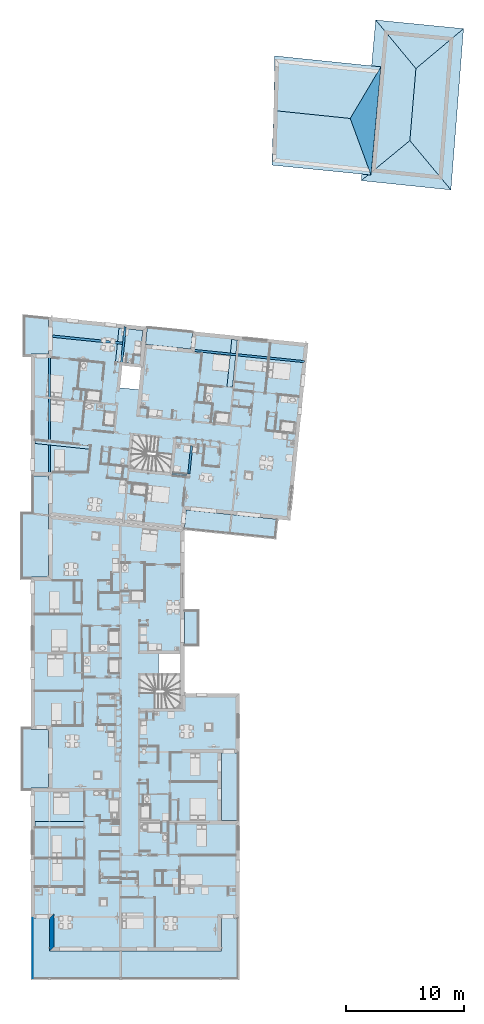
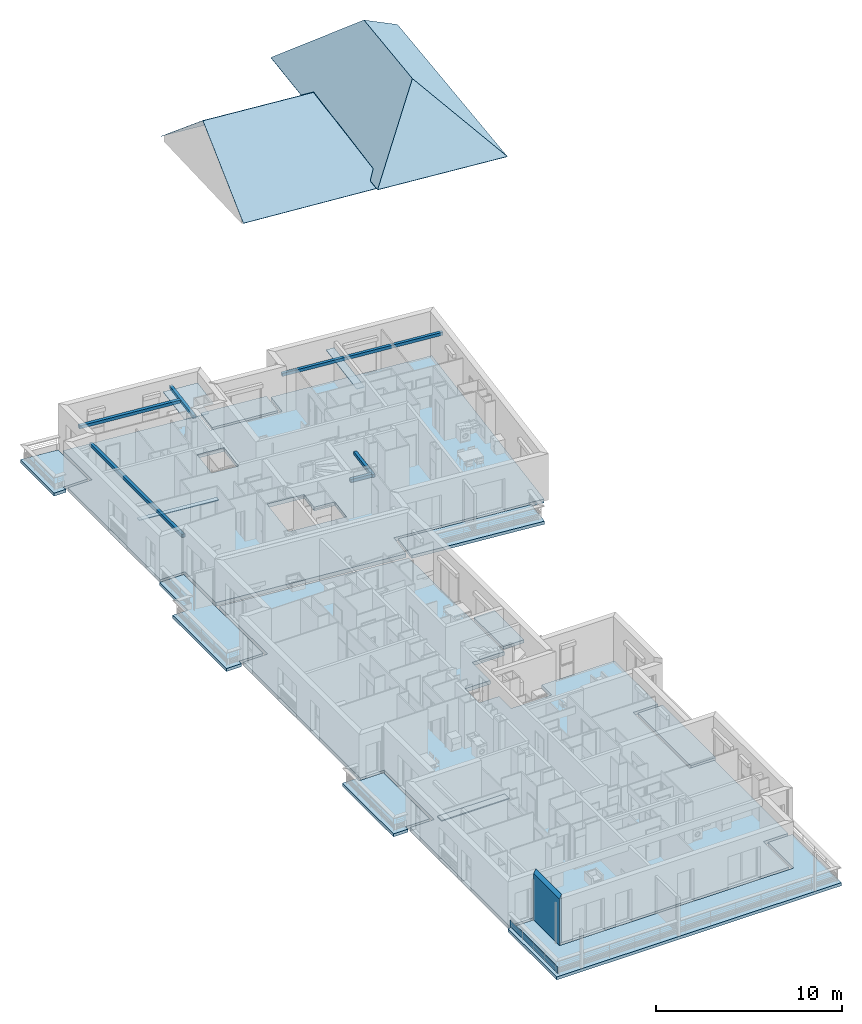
# One storey, part 2 of 165: 18 slabs, 6 beams, 2 walls.
"""IFC2X3 building model written with IfcOpenShell, lengths in millimetres."""

from ifc_helpers import new_model, entity, si_unit, converted_unit, derived_unit, money_unit, direction, frame, frame_2d, origin_with_axes, place, context, subcontext, project, spatial, polyline, rectangle, outline, extrude, faceted_brep, material, layer, layer_set, layer_usage, type_object, element, save


model = new_model("IFC2X3")

# Units and contexts
model_context = context("Model", 3, precision=0.01, world=origin_with_axes(), true_north=direction((0.0, 1.0)))
body_context = subcontext(model_context, "Body", "Model", "MODEL_VIEW")
ifc_project = project(units=[si_unit("LENGTHUNIT", "METRE", prefix="MILLI"), si_unit("AREAUNIT", "SQUARE_METRE"), si_unit("VOLUMEUNIT", "CUBIC_METRE"), converted_unit("PLANEANGLEUNIT", "DEGREE", entity("IfcPlaneAngleMeasure", 0.0174532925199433), si_unit("PLANEANGLEUNIT", "RADIAN"), dimensions=[0, 0, 0, 0, 0, 0, 0]), money_unit("USD"), converted_unit("TIMEUNIT", "Year", entity("IfcTimeMeasure", 31557600.0), si_unit("TIMEUNIT", "SECOND"), dimensions=[0, 0, 1, 0, 0, 0, 0]), si_unit("MASSUNIT", "GRAM", prefix="KILO"), si_unit("THERMODYNAMICTEMPERATUREUNIT", "DEGREE_CELSIUS"), si_unit("LUMINOUSINTENSITYUNIT", "LUMEN"), si_unit("ENERGYUNIT", "JOULE", prefix="MEGA"), derived_unit("THERMALCONDUCTANCEUNIT", [(si_unit("POWERUNIT", "WATT"), 1), (si_unit("LENGTHUNIT", "METRE"), -1), (si_unit("THERMODYNAMICTEMPERATUREUNIT", "KELVIN"), -1)]), derived_unit("SPECIFICHEATCAPACITYUNIT", [(si_unit("ENERGYUNIT", "JOULE"), 1), (si_unit("MASSUNIT", "GRAM", prefix="KILO"), -1), (si_unit("THERMODYNAMICTEMPERATUREUNIT", "KELVIN"), -1)]), derived_unit("MASSDENSITYUNIT", [(si_unit("MASSUNIT", "GRAM", prefix="KILO"), 1), (si_unit("VOLUMEUNIT", "CUBIC_METRE"), -1)])], contexts=[model_context])

# Site, building, storey
site_placement = place(None, origin_with_axes())
site = spatial("IfcSite", under=ifc_project, at=site_placement, Name="Site", CompositionType="ELEMENT")
building_placement = place(site_placement, origin_with_axes())
building = spatial("IfcBuilding", under=site, at=building_placement, Name="Bâtiment", CompositionType="ELEMENT")
storey_placement = place(building_placement, frame((0.0, 0.0, 8500.0), z_axis=(0.0, 0.0, 1.0), x_axis=(1.0, 0.0, 0.0)))
storey = spatial("IfcBuildingStorey", under=building, at=storey_placement, Name="Etage 2", CompositionType="ELEMENT", Elevation=8500.0)

# Beams
ifc_material_1 = material(Name="Brique 1 268964100")
beam_type_1 = type_object("IfcBeamType", Name="Brique 1 268964100 180 x 200", PredefinedType="NOTDEFINED")
beam_1_placement = place(storey_placement, frame((2230393.87287307, -606839.5365523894, 2500.0), z_axis=(0.0, 0.0, 1.0), x_axis=(-0.1011032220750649, -0.9948759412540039, 0.0)))
element("IfcBeam", 1, at=beam_1_placement, inside=storey, type_object=beam_type_1, material=ifc_material_1, Name="Poutre-010", context=body_context, shape_type="SweptSolid", body=[
    extrude(rectangle(XDim=200.0, YDim=180.0, at=frame_2d((-100.0, 0.0), x_axis=(1.0, 0.0))), frame((0.0, 0.0, 0.0), z_axis=(0.0, 1.0, 0.0), x_axis=(0.0, 0.0, 1.0)), (0.0, 0.0, 1.0), 9497.85905292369),
])
beam_2_placement = place(storey_placement, frame((2218224.233344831, -617327.5058083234, 2500.0), z_axis=(0.0, 0.0, 1.0), x_axis=(1.0, 0.0, 0.0)))
element("IfcBeam", 2, at=beam_2_placement, inside=storey, type_object=beam_type_1, material=ifc_material_1, Name="Poutre-010", context=body_context, shape_type="SweptSolid", body=[
    extrude(rectangle(XDim=200.0, YDim=180.0, at=frame_2d((-100.0, 0.0), x_axis=(1.0, 0.0))), frame((0.0, 0.0, 0.0), z_axis=(0.0, 1.0, 0.0), x_axis=(0.0, 0.0, 1.0)), (0.0, 0.0, 1.0), 9980.11790760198),
])
beam_3_placement = place(storey_placement, frame((2228610.301146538, -617315.562762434, 2500.0), z_axis=(0.0, 0.0, 1.0), x_axis=(-0.101103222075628, -0.9948759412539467, 0.0)))
element("IfcBeam", 3, at=beam_3_placement, inside=storey, type_object=beam_type_1, material=ifc_material_1, Name="Poutre-010", context=body_context, shape_type="SweptSolid", body=[
    extrude(rectangle(XDim=200.0, YDim=180.0, at=frame_2d((-100.0, 0.0), x_axis=(1.0, 0.0))), frame((0.0, 0.0, 0.0), z_axis=(0.0, 1.0, 0.0), x_axis=(0.0, 0.0, 1.0)), (0.0, 0.0, 1.0), 1264.730172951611),
])
beam_4_placement = place(storey_placement, frame((2224328.531183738, -607941.9597827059, 2500.0), z_axis=(0.0, 0.0, 1.0), x_axis=(0.9948759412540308, -0.1011032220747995, 0.0)))
element("IfcBeam", 4, at=beam_4_placement, inside=storey, type_object=beam_type_1, material=ifc_material_1, Name="Poutre-010", context=body_context, shape_type="SweptSolid", body=[
    extrude(rectangle(XDim=200.0, YDim=180.0, at=frame_2d((-100.0, 0.0), x_axis=(1.0, 0.0))), frame((0.0, 0.0, 0.0), z_axis=(0.0, 1.0, 0.0), x_axis=(0.0, 0.0, 1.0)), (0.0, 0.0, 1.0), 3119.999936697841),
])
beam_5_placement = place(storey_placement, frame((2230040.489356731, -617334.0619865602, 2300.000000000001), z_axis=(0.0, 0.0, 1.0), x_axis=(0.9948759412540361, -0.1011032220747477, 0.0)))
element("IfcBeam", 5, at=beam_5_placement, inside=storey, type_object=beam_type_1, material=ifc_material_1, Name="Poutre-010", context=body_context, shape_type="SweptSolid", body=[
    extrude(rectangle(XDim=200.0, YDim=180.0, at=frame_2d((-100.0, 0.0), x_axis=(1.0, 0.0))), frame((0.0, 0.0, 0.0), z_axis=(0.0, 1.0, 0.0), x_axis=(0.0, 0.0, 1.0)), (0.0, 0.0, 1.0), 2403.976836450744),
])
beam_type_2 = type_object("IfcBeamType", Name="Brique 1 268964100 200 x 200", PredefinedType="NOTDEFINED")
beam_6_placement = place(storey_placement, frame((2218464.123022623, -605637.2397645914, 2500.0), z_axis=(0.0, 0.0, 1.0), x_axis=(-0.1011032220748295, -0.9948759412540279, 0.0)))
element("IfcBeam", 6, at=beam_6_placement, inside=storey, type_object=beam_type_2, material=ifc_material_1, Name="Poutre-010", context=body_context, shape_type="SweptSolid", body=[
    extrude(rectangle(XDim=200.0, YDim=200.0, at=frame_2d((-100.0, 0.0), x_axis=(1.0, 0.0))), frame((0.0, 0.0, 0.0), z_axis=(0.0, 1.0, 0.0), x_axis=(0.0, 0.0, 1.0)), (0.0, 0.0, 1.0), 6167.373208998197),
])

# Slabs
ifc_material_2 = material(Name="100 % (2) 313493396")
ifc_layer_1 = layer(ifc_material_2, 50.0, ventilated="UNKNOWN")
ifc_layer_set_1 = layer_set([ifc_layer_1], Name="dalle 5")
ifc_layer_usage_1 = layer_usage(ifc_layer_set_1, "AXIS3", "NEGATIVE", 50.0)
slab_type_1 = type_object("IfcSlabType", Name="dalle 5 50", PredefinedType="FLOOR")
slab_1_placement = place(storey_placement, frame((2233687.057866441, -605917.7649568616, 2300.000000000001), z_axis=(0.0, 0.0, 1.0), x_axis=(1.0, 0.0, 0.0)))
element("IfcSlab", 7, at=slab_1_placement, inside=storey, type_object=slab_type_1, material=ifc_layer_usage_1, Name="Dalle-033", PredefinedType="FLOOR", context=body_context, shape_type="SweptSolid", body=[
    extrude(outline(polyline([(0.0, 0.0), (-408.0038915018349, -4003.454764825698), (65.88150709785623, -4051.749817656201), (475.8709786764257, -48.35989647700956), (0.0, 0.0)])), frame((0.0, 0.0, -50.0), z_axis=(0.0, 0.0, 1.0), x_axis=(1.0, 0.0, 0.0)), (0.0, 0.0, 1.0), 50.0),
])
ifc_layer_usage_2 = layer_usage(ifc_layer_set_1, "AXIS3", "NEGATIVE", 50.0)
slab_2_placement = place(storey_placement, frame((2216974.233342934, -646849.0856846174, 2300.000000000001), z_axis=(0.0, 0.0, 1.0), x_axis=(1.0, 0.0, 0.0)))
element("IfcSlab", 8, at=slab_2_placement, inside=storey, type_object=slab_type_1, material=ifc_layer_usage_2, Name="Dalle-033", PredefinedType="FLOOR", context=body_context, shape_type="SweptSolid", body=[
    extrude(outline(polyline([(0.0, 0.0), (0.0, -471.7009405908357), (4178.117824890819, -471.7009405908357), (4178.117824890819, -2.939116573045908), (0.0, 0.0)])), frame((0.0, 0.0, -50.0), z_axis=(0.0, 0.0, 1.0), x_axis=(1.0, 0.0, 0.0)), (0.0, 0.0, 1.0), 50.0),
])
ifc_layer_usage_3 = layer_usage(ifc_layer_set_1, "AXIS3", "NEGATIVE", 50.0)
slab_3_placement = place(storey_placement, frame((2224110.395544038, -604944.5467093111, 2300.000000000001), z_axis=(0.0, 0.0, 1.0), x_axis=(1.0, 0.0, 0.0)))
element("IfcSlab", 9, at=slab_3_placement, inside=storey, type_object=slab_type_1, material=ifc_layer_usage_3, Name="Dalle-033", PredefinedType="FLOOR", context=body_context, shape_type="SweptSolid", body=[
    extrude(outline(polyline([(0.0, 0.0), (-289.1694038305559, -2845.336077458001), (1143.195881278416, -2990.906303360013), (1220.068497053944, -2234.464377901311), (1817.330109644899, -2295.160461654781), (2018.028361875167, -320.1719685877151), (2029.612910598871, -206.2572792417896), (0.0, 0.0)])), frame((0.0, 0.0, -50.0), z_axis=(0.0, 0.0, 1.0), x_axis=(1.0, 0.0, 0.0)), (0.0, 0.0, 1.0), 50.0),
])
ifc_layer_usage_4 = layer_usage(ifc_layer_set_1, "AXIS3", "NEGATIVE", 50.0)
slab_4_placement = place(storey_placement, frame((2216974.233344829, -614749.3219730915, 2300.000000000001), z_axis=(0.0, 0.0, 1.0), x_axis=(1.0, 0.0, 0.0)))
element("IfcSlab", 10, at=slab_4_placement, inside=storey, type_object=slab_type_1, material=ifc_layer_usage_4, Name="Dalle-033", PredefinedType="FLOOR", context=body_context, shape_type="SweptSolid", body=[
    extrude(outline(polyline([(0.0, 0.0), (4669.890523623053, -490.8252407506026), (4698.260022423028, -211.8584208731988), (3155.885458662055, -55.00668013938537), (4.159915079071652e-06, 265.9310156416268), (0.0, 0.0)])), frame((0.0, 0.0, -50.0), z_axis=(0.0, 0.0, 1.0), x_axis=(1.0, 0.0, 0.0)), (0.0, 0.0, 1.0), 50.0),
])
ifc_material_3 = material(Name="Parpaing 288701002")
ifc_layer_2 = layer(ifc_material_3, 200.0, ventilated="UNKNOWN")
ifc_layer_set_2 = layer_set([ifc_layer_2], Name="dalle 20 0025571715")
ifc_layer_usage_5 = layer_usage(ifc_layer_set_2, "AXIS3", "NEGATIVE", 200.0)
slab_type_2 = type_object("IfcSlabType", Name="dalle 20 0025571715 200", PredefinedType="FLOOR")
slab_5_placement = place(storey_placement, frame((2230223.894490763, -606731.7991374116, 0.0), z_axis=(0.0, 0.0, 1.0), x_axis=(1.0, 0.0, 0.0)))
element("IfcSlab", 11, at=slab_5_placement, inside=storey, type_object=slab_type_2, material=ifc_layer_usage_5, Name="Dalle-050", PredefinedType="FLOOR", context=body_context, shape_type="SweptSolid", body=[
    extrude(outline(polyline([(0.0, 0.0), (151.6548331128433, 1492.313911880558), (-3711.009227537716, 1887.277492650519), (-3862.664209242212, 394.9635958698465), (0.0, 0.0)])), frame((0.0, 0.0, -200.0), z_axis=(0.0, 0.0, 1.0), x_axis=(1.0, 0.0, 0.0)), (0.0, 0.0, 1.0), 200.0),
])
ifc_layer_usage_6 = layer_usage(ifc_layer_set_2, "AXIS3", "NEGATIVE", 200.0)
slab_6_placement = place(storey_placement, frame((2216634.233338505, -660298.1031596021, 0.0), z_axis=(0.0, 0.0, 1.0), x_axis=(1.0, 0.0, 0.0)))
element("IfcSlab", 12, at=slab_6_placement, inside=storey, type_object=slab_type_2, material=ifc_layer_usage_6, Name="Dalle-050", PredefinedType="FLOOR", context=body_context, shape_type="SweptSolid", body=[
    extrude(outline(polyline([(0.0, 0.0), (17705.50428824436, 0.0), (17705.50428824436, 5256.635282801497), (16172.42477240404, 5256.635282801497), (16172.42476012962, 2479.780082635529), (1599.999920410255, 2479.780024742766), (1599.999920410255, 5256.635282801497), (0.0, 5256.635282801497), (0.0, 0.0)])), frame((0.0, 0.0, -200.0), z_axis=(0.0, 0.0, 1.0), x_axis=(1.0, 0.0, 0.0)), (0.0, 0.0, 1.0), 200.0),
])
ifc_material_4 = material(Name="Isolant styromousse 288701002")
slab_type_3 = type_object("IfcSlabType", Name="Isolant styromousse 288701002 15", PredefinedType="ROOF")
slab_7_placement = place(storey_placement, frame((2249022.343784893, -586008.4102395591, 1568.886353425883), z_axis=(0.0, 0.0, 1.0), x_axis=(1.0, 0.0, 0.0)))
element("IfcSlab", 13, at=slab_7_placement, inside=storey, type_object=slab_type_3, material=ifc_material_4, Name="Toit-024", PredefinedType="ROOF", context=body_context, shape_type="Brep", body=[
    faceted_brep([(298.6643888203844, 3089.668017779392, 2991.73285764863), (4345.344184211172, 6479.725297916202, -778.3329238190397), (-3114.533458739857, 7213.824325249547, -778.3329846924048), (-216.323681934, -3025.106949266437, 3028.430706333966), (3274.502416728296, -7213.82432524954, -778.3329652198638), (4345.344184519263, 6479.725298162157, -799.999932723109), (-3114.533459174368, 7213.824325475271, -799.9999934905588), (-4345.344184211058, -6424.546240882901, -778.3329851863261), (3274.50241666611, -7213.824325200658, -799.9999737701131), (298.6643889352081, 3089.668017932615, 2970.065848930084), (-4345.344184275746, -6424.546241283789, -799.999993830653), (-216.3236821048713, -3025.106948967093, 3006.76369791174)], [[[0, 1, 2]], [[1, 0, 3, 4]], [[1, 5, 6, 2]], [[3, 0, 2, 7]], [[4, 3, 7]], [[5, 1, 4, 8]], [[5, 9, 6]], [[2, 6, 10, 7]], [[8, 4, 7, 10]], [[9, 5, 8, 11]], [[9, 11, 10, 6]], [[11, 8, 10]]]),
])
ifc_layer_3 = layer(ifc_material_4, 15.32088886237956, ventilated="UNKNOWN")
ifc_layer_set_3 = layer_set([ifc_layer_3], Name="Isolant styromousse 288701002 15.3209")
ifc_layer_usage_7 = layer_usage(ifc_layer_set_3, "AXIS3", "NEGATIVE", 15.32088886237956)
slab_8_placement = place(storey_placement, frame((2246304.734301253, -583297.017413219, 385.4056906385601), z_axis=(0.0, 0.0, 1.0), x_axis=(-0.08988090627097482, -0.9959525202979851, 0.0)))
element("IfcSlab", 14, at=slab_8_placement, inside=storey, type_object=slab_type_3, material=ifc_layer_usage_7, Name="Toit-023", PredefinedType="ROOF", context=body_context, shape_type="SweptSolid", body=[
    extrude(outline(polyline([(-531.6601426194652, -2.323031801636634e-10), (4072.073223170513, -4499.183275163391), (8695.913567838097, -26.40222861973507), (-531.6601426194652, -2.323031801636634e-10)])), frame((0.0, 0.0, 0.0), z_axis=(0.0, 0.8720692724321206, 0.4893824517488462), x_axis=(1.0, 0.0, 0.0)), (0.0, -0.8720692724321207, 0.4893824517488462), 31.30657588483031),
])
ifc_layer_usage_8 = layer_usage(ifc_layer_set_3, "AXIS3", "NEGATIVE", 15.32088886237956)
slab_9_placement = place(storey_placement, frame((2245544.7225973, -591718.5565744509, 650.94680440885), z_axis=(0.0, 0.0, 1.0), x_axis=(-0.9946781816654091, 0.1030306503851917, 0.0)))
element("IfcSlab", 15, at=slab_9_placement, inside=storey, type_object=slab_type_3, material=ifc_layer_usage_8, Name="Toit-023", PredefinedType="ROOF", context=body_context, shape_type="SweptSolid", body=[
    extrude(outline(polyline([(8471.542386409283, 355.6482977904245), (9.747025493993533, 313.6888679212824), (2259.542385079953, -5684.029891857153), (8791.313423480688, -5683.941553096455), (8471.542386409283, 355.6482977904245)])), frame((0.0, 0.0, 0.0), z_axis=(0.0, 0.6427876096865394, 0.7660444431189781), x_axis=(1.0, 0.0, 0.0)), (0.0, -0.6427876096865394, 0.7660444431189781), 20.0),
])
ifc_layer_usage_9 = layer_usage(ifc_layer_set_3, "AXIS3", "NEGATIVE", 15.32088886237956)
slab_10_placement = place(storey_placement, frame((2237364.476926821, -582084.9367161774, 650.94680440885), z_axis=(0.0, 0.0, 1.0), x_axis=(0.994678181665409, -0.1030306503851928, 0.0)))
element("IfcSlab", 16, at=slab_10_placement, inside=storey, type_object=slab_type_3, material=ifc_layer_usage_9, Name="Toit-023", PredefinedType="ROOF", context=body_context, shape_type="SweptSolid", body=[
    extrude(outline(polyline([(-53.35721052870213, 314.2326618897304), (337.956585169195, -5724.711730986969), (6869.727623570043, -5724.623392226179), (9010.536617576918, 322.5714318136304), (-53.35721052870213, 314.2326618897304)])), frame((0.0, 0.0, 0.0), z_axis=(0.0, 0.6427876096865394, 0.7660444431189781), x_axis=(1.0, 0.0, 0.0)), (0.0, -0.6427876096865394, 0.7660444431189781), 20.0),
])
ifc_material_5 = material(Name="MANQUANT")
ifc_layer_4 = layer(ifc_material_5, 200.0, ventilated="UNKNOWN")
ifc_layer_set_4 = layer_set([ifc_layer_4], Name="MANQUANT 200")
ifc_layer_usage_10 = layer_usage(ifc_layer_set_4, "AXIS3", "NEGATIVE", 200.0)
slab_type_4 = type_object("IfcSlabType", Name="MANQUANT 200", PredefinedType="FLOOR")
slab_11_placement = place(storey_placement, frame((2230955.389056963, -628817.4267943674, 0.0), z_axis=(0.0, 0.0, 1.0), x_axis=(1.0, 0.0, 0.0)))
element("IfcSlab", 17, at=slab_11_placement, inside=storey, type_object=slab_type_4, material=ifc_layer_usage_10, Name="Dalle-050", PredefinedType="FLOOR", context=body_context, shape_type="SweptSolid", body=[
    extrude(outline(polyline([(0.0, 0.0), (-1301.913019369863, 0.0), (-1301.91302006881, -3176.479518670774), (0.0, -3176.479518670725), (0.0, 0.0)])), frame((0.0, 0.0, -200.0), z_axis=(0.0, 0.0, 1.0), x_axis=(1.0, 0.0, 0.0)), (0.0, 0.0, 1.0), 200.0),
])
ifc_layer_usage_11 = layer_usage(ifc_layer_set_4, "AXIS3", "NEGATIVE", 200.0)
slab_12_placement = place(storey_placement, frame((2218134.233344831, -617507.5058083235, 0.0), z_axis=(0.0, 0.0, 1.0), x_axis=(1.0, 0.0, 0.0)))
element("IfcSlab", 18, at=slab_12_placement, inside=storey, type_object=slab_type_4, material=ifc_layer_usage_11, Name="Dalle-050", PredefinedType="FLOOR", context=body_context, shape_type="SweptSolid", body=[
    extrude(outline(polyline([(0.0, 0.0), (-1500.000000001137, 0.0), (-1497.33547796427, -3030.658011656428), (-2425.63815963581, -3030.658011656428), (-2425.000000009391, -8813.708323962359), (-1499.997776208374, -8813.708323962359), (-1499.997776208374, -8563.708323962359), (0.002223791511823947, -8563.708323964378), (0.0, 0.0)])), frame((0.0, 0.0, -200.0), z_axis=(0.0, 0.0, 1.0), x_axis=(1.0, 0.0, 0.0)), (0.0, 0.0, 1.0), 200.0),
])
ifc_layer_usage_12 = layer_usage(ifc_layer_set_4, "AXIS3", "NEGATIVE", 200.0)
slab_13_placement = place(storey_placement, frame((2237471.83380513, -622900.3599408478, 0.0), z_axis=(0.0, 0.0, 1.0), x_axis=(1.0, 0.0, 0.0)))
element("IfcSlab", 19, at=slab_13_placement, inside=storey, type_object=slab_type_4, material=ifc_layer_usage_12, Name="Dalle-050", PredefinedType="FLOOR", context=body_context, shape_type="SweptSolid", body=[
    extrude(outline(polyline([(0.0, 0.0), (174.8027462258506, 1712.409794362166), (-7651.700600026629, 2507.769972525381), (-7816.335701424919, 887.7276226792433), (-7801.176026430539, 792.2411083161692), (0.0, 0.0)])), frame((0.0, 0.0, -200.0), z_axis=(0.0, 0.0, 1.0), x_axis=(1.0, 0.0, 0.0)), (0.0, 0.0, 1.0), 200.0),
])
ifc_layer_usage_13 = layer_usage(ifc_layer_set_4, "AXIS3", "NEGATIVE", 200.0)
slab_14_placement = place(storey_placement, frame((2218134.314050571, -639016.8076992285, 0.0), z_axis=(0.0, 0.0, 1.0), x_axis=(1.0, 0.0, 0.0)))
element("IfcSlab", 20, at=slab_14_placement, inside=storey, type_object=slab_type_4, material=ifc_layer_usage_13, Name="Dalle-050", PredefinedType="FLOOR", context=body_context, shape_type="SweptSolid", body=[
    extrude(outline(polyline([(0.0, 0.0), (-1500.000000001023, 0.0), (-1499.997386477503, 249.9999999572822), (-2395.078092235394, 249.9999999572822), (-2395.081513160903, -5249.568823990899), (-1500.000000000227, -5249.568823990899), (-1500.000000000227, -5124.568823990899), (-1500.080705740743, -4999.568823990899), (-0.08070574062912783, -4999.568823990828), (0.0, 0.0)])), frame((0.0, 0.0, -200.0), z_axis=(0.0, 0.0, 1.0), x_axis=(1.0, 0.0, 0.0)), (0.0, 0.0, 1.0), 200.0),
])
ifc_layer_usage_14 = layer_usage(ifc_layer_set_4, "AXIS3", "NEGATIVE", 200.0)
slab_15_placement = place(storey_placement, frame((2232806.658098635, -646738.4413036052, 0.0), z_axis=(0.0, 0.0, 1.0), x_axis=(1.0, 0.0, 0.0)))
element("IfcSlab", 21, at=slab_15_placement, inside=storey, type_object=slab_type_4, material=ifc_layer_usage_14, Name="Dalle-050", PredefinedType="FLOOR", context=body_context, shape_type="SweptSolid", body=[
    extrude(outline(polyline([(0.0, 0.0), (1550.013200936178, 0.0), (1550.013198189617, 5713.115765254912), (0.0, 5713.115765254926), (0.0, 0.0)])), frame((0.0, 0.0, -200.0), z_axis=(0.0, 0.0, 1.0), x_axis=(1.0, 0.0, 0.0)), (0.0, 0.0, 1.0), 200.0),
])
ifc_layer_5 = layer(ifc_material_1, 50.0, ventilated="UNKNOWN")
ifc_layer_6 = layer(ifc_material_3, 200.0, ventilated="UNKNOWN")
ifc_layer_set_5 = layer_set([ifc_layer_5, ifc_layer_6], Name="dalle 25  20+chape")
ifc_layer_usage_15 = layer_usage(ifc_layer_set_5, "AXIS3", "NEGATIVE", 250.0)
slab_type_5 = type_object("IfcSlabType", Name="dalle 25  20+chape 250", PredefinedType="FLOOR")
slab_16_placement = place(storey_placement, frame((2216814.23334483, -607347.3879007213, 0.0), z_axis=(0.0, 0.0, 1.0), x_axis=(1.0, 0.0, 0.0)))
element("IfcSlab", 22, at=slab_16_placement, inside=storey, type_object=slab_type_5, material=ifc_layer_usage_15, Name="Dalle-030", PredefinedType="FLOOR", context=body_context, shape_type="SweptSolid", body=[
    extrude(outline(polyline([(0.0, 0.0), (3.410605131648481e-10, -9980.117907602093), (1500.000000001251, -9980.117907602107), (1500.000000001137, -13331.77322326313), (12680.38566887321, -14467.96817345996), (12845.02077082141, -12847.92581820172), (16961.81429150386, -13266.23665893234), (20566.26060295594, -13632.5347276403), (21677.98372468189, -13745.52478754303), (23171.43728008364, 950.3571156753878), (13722.19506849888, 1910.626425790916), (13570.54023538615, 418.3125139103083), (9349.476631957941, 847.2736506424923), (9501.131791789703, 2339.587545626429), (1500.000000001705, 3152.694156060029), (1500.000000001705, -1.35003119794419e-10), (0.0, 0.0)]), holes=[polyline([(8222.522113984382, -9514.55355768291), (8509.637444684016, -6689.275675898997), (10696.68540675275, -6911.532126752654), (10564.13270756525, -8215.877399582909), (11777.88128949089, -8339.223983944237), (11626.14966600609, -9860.442876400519), (8222.522113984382, -9514.55355768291)]), polyline([(8975.394711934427, -2833.767315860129), (7383.593205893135, -2672.002160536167), (7575.689334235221, -781.7378091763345), (9167.49084024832, -943.5029644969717), (8975.394711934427, -2833.767315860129)])]), frame((0.0, 0.0, -250.0), z_axis=(0.0, 0.0, 1.0), x_axis=(1.0, 0.0, 0.0)), (0.0, 0.0, 1.0), 250.0),
])
ifc_layer_usage_16 = layer_usage(ifc_layer_set_5, "AXIS3", "NEGATIVE", 250.0)
slab_17_placement = place(storey_placement, frame((2216814.23334483, -644196.3765209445, 0.0), z_axis=(0.0, 0.0, 1.0), x_axis=(1.0, 0.0, 0.0)))
element("IfcSlab", 23, at=slab_17_placement, inside=storey, type_object=slab_type_5, material=ifc_layer_usage_16, Name="Dalle-030", PredefinedType="FLOOR", context=body_context, shape_type="SweptSolid", body=[
    extrude(outline(polyline([(0.0, 0.0), (-1.13686837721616e-10, -10665.09125735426), (1599.999994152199, -10665.09125735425), (1599.999994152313, -13441.94655602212), (15812.42475380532, -13441.94655602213), (15812.49360445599, -10665.02242007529), (17362.43795199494, -10665.09125735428), (17362.43795199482, -2722.064785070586), (15812.4247537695, -2722.064784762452), (15812.42475380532, 3351.05098259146), (17362.43795199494, 3351.050982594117), (17362.43795199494, 8063.032626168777), (12839.24269108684, 8063.03262623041), (12839.24269146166, 6963.032626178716), (12659.24269146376, 6963.032626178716), (10300.93044790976, 6963.033069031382), (10300.93069364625, 8274.09630504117), (9080.930693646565, 8274.097207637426), (9078.08501187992, 9802.861841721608), (10649.51986168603, 9802.861841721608), (10649.51986168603, 9982.861841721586), (10649.51986168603, 11762.86184172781), (12659.24269197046, 11762.8618417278), (12596.51838491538, 21944.53883796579), (1500.000000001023, 23135.25822605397), (1500.002223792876, 17945.16238865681), (0.003595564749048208, 17945.16238865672), (0.07965015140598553, 5359.568821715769), (1500.083355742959, 5359.568821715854), (1500.08333547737, 1.895834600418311e-05), (0.0, 0.0)])), frame((0.0, 0.0, -250.0), z_axis=(0.0, 0.0, 1.0), x_axis=(1.0, 0.0, 0.0)), (0.0, 0.0, 1.0), 250.0),
])
ifc_material_6 = material(Name="AS_EMPTY 272048125")
ifc_layer_7 = layer(ifc_material_6, 200.0, ventilated="UNKNOWN")
ifc_layer_set_6 = layer_set([ifc_layer_7], Name="AS_EMPTY 272048125 200")
ifc_layer_usage_17 = layer_usage(ifc_layer_set_6, "AXIS3", "NEGATIVE", 200.0)
slab_type_6 = type_object("IfcSlabType", Name="AS_EMPTY 272048125 200", PredefinedType="FLOOR")
slab_18_placement = place(storey_placement, frame((2215908.871261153, -607417.3879007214, 0.0), z_axis=(0.0, 0.0, 1.0), x_axis=(1.0, 0.0, 0.0)))
element("IfcSlab", 24, at=slab_18_placement, inside=storey, type_object=slab_type_6, material=ifc_layer_usage_17, Name="Dalle-050", PredefinedType="FLOOR", context=body_context, shape_type="SweptSolid", body=[
    extrude(outline(polyline([(0.0, 0.0), (725.3620836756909, 0.0), (725.3620836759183, 249.9999999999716), (2225.362103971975, 249.9999999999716), (2225.362083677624, 3421.913547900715), (-0.1780537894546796, 3647.538939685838), (0.0, 0.0)])), frame((0.0, 0.0, -200.0), z_axis=(0.0, 0.0, 1.0), x_axis=(1.0, 0.0, 0.0)), (0.0, 0.0, 1.0), 200.0),
])

# Walls
ifc_layer_8 = layer(ifc_material_5, 20.0, ventilated="UNKNOWN")
ifc_layer_set_7 = layer_set([ifc_layer_8], Name="MANQUANT 20")
ifc_layer_usage_18 = layer_usage(ifc_layer_set_7, "AXIS2", "NEGATIVE", 20.0)
wall_type_1 = type_object("IfcWallType", Name="MANQUANT 20", PredefinedType="NOTDEFINED")
wall_1_placement = place(storey_placement, frame((2216775.087519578, -655041.4678752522, 99.99999999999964), z_axis=(0.0, 0.0, 1.0), x_axis=(0.0, -1.0, 0.0)))
element("IfcWallStandardCase", 25, at=wall_1_placement, inside=storey, type_object=wall_type_1, material=ifc_layer_usage_18, Name="Mur-179", context=body_context, shape_type="SweptSolid", body=[
    extrude(outline(polyline([(-9.695342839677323e-05, 0.0), (5120.550141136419, 0.0), (5100.550141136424, 19.99999999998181), (-9.695342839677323e-05, 19.99999999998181), (-9.695342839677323e-05, 0.0)])), origin_with_axes(), (0.0, 0.0, 1.0), 400.0),
])
ifc_material_7 = material(Name="Parpaing 312445824")
ifc_layer_9 = layer(ifc_material_7, 180.0, ventilated="UNKNOWN")
ifc_material_8 = material(Name="Isolant styromousse 301821074")
ifc_layer_10 = layer(ifc_material_8, 160.0, ventilated="UNKNOWN")
ifc_layer_set_8 = layer_set([ifc_layer_9, ifc_layer_10], Name="isol int 18+16 0018356637")
ifc_layer_usage_19 = layer_usage(ifc_layer_set_8, "AXIS2", "POSITIVE", 0.0)
wall_type_2 = type_object("IfcWallType", Name="isol int 18+16 0018356637 340", PredefinedType="NOTDEFINED")
wall_2_placement = place(storey_placement, frame((2218234.233338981, -655041.4677782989, 0.0), z_axis=(0.0, 0.0, 1.0), x_axis=(0.0, -1.0, 0.0)))
element("IfcWallStandardCase", 26, at=wall_2_placement, inside=storey, type_object=wall_type_2, material=ifc_layer_usage_19, Name="Mur-143", context=body_context, shape_type="SweptSolid", body=[
    extrude(outline(polyline([(0.0, 0.0), (2776.855298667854, 0.0), (2436.855298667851, 340.0000000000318), (-340.0000000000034, 340.0000000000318), (0.0, 0.0)])), origin_with_axes(), (0.0, 0.0, 1.0), 3050.0),
])

save(model, "model.ifc")
